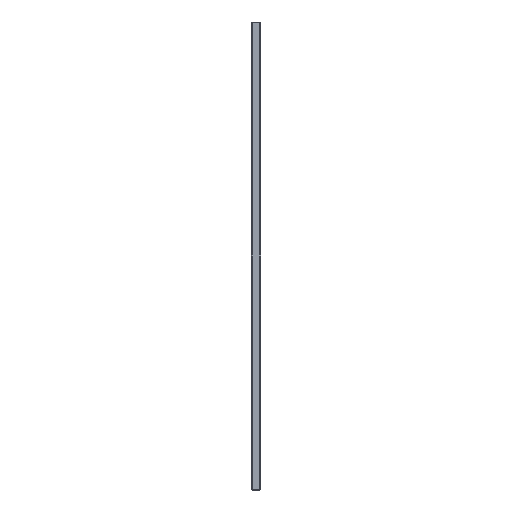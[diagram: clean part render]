
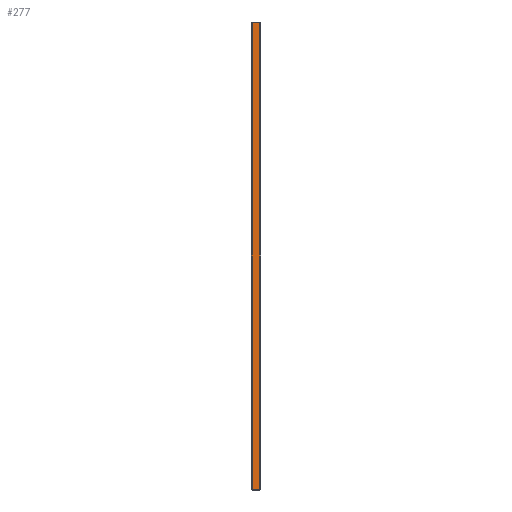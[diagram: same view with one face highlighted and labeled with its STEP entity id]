
A CAD part, left-side view. The second image highlights one B-rep face of the part: STEP entity #277.
In plain terms, the highlighted planar face has unit normal (-1, 0, 0).
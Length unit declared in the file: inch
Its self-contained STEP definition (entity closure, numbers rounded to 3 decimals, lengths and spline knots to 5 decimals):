
#39 = CARTESIAN_POINT ( 'NONE',  ( -17.6875, 0.45, 11.7625 ) ) ;
#63 = DIRECTION ( 'NONE',  ( 0., 0., -1. ) ) ;
#190 = VERTEX_POINT ( 'NONE', #1234 ) ;
#204 = VERTEX_POINT ( 'NONE', #2184 ) ;
#206 = DIRECTION ( 'NONE',  ( 0., -1., 0. ) ) ;
#229 = CARTESIAN_POINT ( 'NONE',  ( -17.6875, 0.5, -11.8125 ) ) ;
#277 = ADVANCED_FACE ( 'Placement Plane', ( #1983 ), #1164, .F. ) ;
#325 = ORIENTED_EDGE ( 'NONE', *, *, #2311, .T. ) ;
#416 = EDGE_CURVE ( 'NONE', #204, #190, #1646, .T. ) ;
#428 = LINE ( 'NONE', #1122, #1920 ) ;
#604 = VECTOR ( 'NONE', #63, 39.37008 ) ;
#792 = VECTOR ( 'NONE', #1725, 39.37008 ) ;
#827 = CARTESIAN_POINT ( 'NONE',  ( -17.6875, 0.45, -11.8125 ) ) ;
#851 = CARTESIAN_POINT ( 'NONE',  ( -17.6875, 0.45, -11.7625 ) ) ;
#907 = EDGE_CURVE ( 'NONE', #190, #1861, #992, .T. ) ;
#992 = LINE ( 'NONE', #1012, #792 ) ;
#1007 = DIRECTION ( 'NONE',  ( 0., 0., -1. ) ) ;
#1012 = CARTESIAN_POINT ( 'NONE',  ( -17.6875, 0.5, 11.7625 ) ) ;
#1122 = CARTESIAN_POINT ( 'NONE',  ( -17.6875, 0.5, -11.7625 ) ) ;
#1141 = EDGE_LOOP ( 'NONE', ( #325, #2358, #1493, #2257 ) ) ;
#1164 = PLANE ( 'NONE',  #2107 ) ;
#1186 = VECTOR ( 'NONE', #1505, 39.37008 ) ;
#1234 = CARTESIAN_POINT ( 'NONE',  ( -17.6875, 0.05, 11.7625 ) ) ;
#1493 = ORIENTED_EDGE ( 'NONE', *, *, #416, .T. ) ;
#1505 = DIRECTION ( 'NONE',  ( 0., 0., 1. ) ) ;
#1646 = LINE ( 'NONE', #1847, #1186 ) ;
#1725 = DIRECTION ( 'NONE',  ( 0., 1., 0. ) ) ;
#1847 = CARTESIAN_POINT ( 'NONE',  ( -17.6875, 0.05, -11.8125 ) ) ;
#1861 = VERTEX_POINT ( 'NONE', #39 ) ;
#1882 = DIRECTION ( 'NONE',  ( 1., 0., 0. ) ) ;
#1920 = VECTOR ( 'NONE', #206, 39.37008 ) ;
#1938 = EDGE_CURVE ( 'NONE', #2133, #204, #428, .T. ) ;
#1983 = FACE_OUTER_BOUND ( 'NONE', #1141, .T. ) ;
#2065 = LINE ( 'NONE', #827, #604 ) ;
#2107 = AXIS2_PLACEMENT_3D ( 'NONE', #229, #1882, #1007 ) ;
#2133 = VERTEX_POINT ( 'NONE', #851 ) ;
#2184 = CARTESIAN_POINT ( 'NONE',  ( -17.6875, 0.05, -11.7625 ) ) ;
#2257 = ORIENTED_EDGE ( 'NONE', *, *, #907, .T. ) ;
#2311 = EDGE_CURVE ( 'NONE', #1861, #2133, #2065, .T. ) ;
#2358 = ORIENTED_EDGE ( 'NONE', *, *, #1938, .T. ) ;
